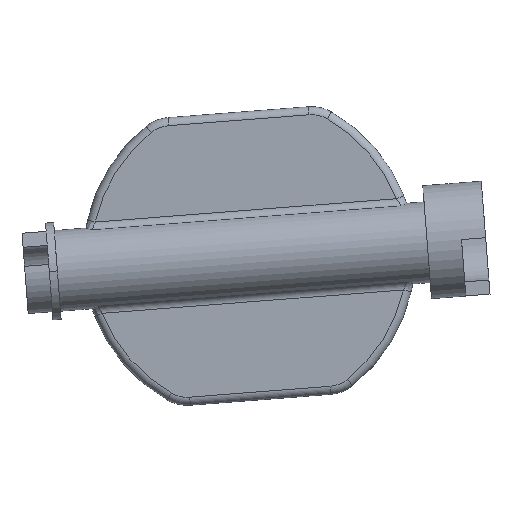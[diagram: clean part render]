
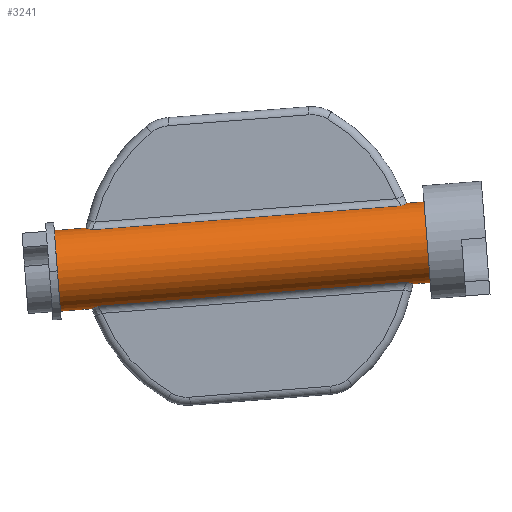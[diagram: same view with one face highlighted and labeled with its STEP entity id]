
A CAD part, front view. The second image highlights one B-rep face of the part: STEP entity #3241.
In plain terms, the highlighted cylindrical face has radius 5 mm (diameter 10 mm), a partial arc.
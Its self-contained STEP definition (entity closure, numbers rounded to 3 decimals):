
#776=CARTESIAN_POINT('',(595.539,-1.667,-146.277));
#777=CARTESIAN_POINT('',(595.62,-1.59,-146.298));
#778=CARTESIAN_POINT('',(595.769,-1.439,-146.336));
#779=CARTESIAN_POINT('',(595.952,-1.218,-146.382));
#780=CARTESIAN_POINT('',(596.093,-1.002,-146.421));
#781=CARTESIAN_POINT('',(596.195,-0.794,
-146.451));
#782=CARTESIAN_POINT('',(596.263,-0.595,
-146.473));
#783=CARTESIAN_POINT('',(596.302,-0.401,
-146.49));
#784=CARTESIAN_POINT('',(596.309,-0.277,
-146.497));
#785=CARTESIAN_POINT('',(596.309,-0.217,
-146.5));
#801=CARTESIAN_POINT('',(596.309,-0.217,
-146.5));
#803=CARTESIAN_POINT('',(596.309,-0.217,
-146.5));
#804=CARTESIAN_POINT('',(596.308,-0.181,
-146.501));
#805=CARTESIAN_POINT('',(596.308,-0.108,
-146.504));
#806=CARTESIAN_POINT('',(596.308,-0.036,
-146.504));
#807=CARTESIAN_POINT('',(596.308,0.,
-146.504));
#829=CARTESIAN_POINT('',(595.535,0.,-136.534));
#830=CARTESIAN_POINT('',(595.535,-0.036,
-136.534));
#831=CARTESIAN_POINT('',(595.536,-0.108,
-136.535));
#832=CARTESIAN_POINT('',(595.536,-0.181,
-136.537));
#833=CARTESIAN_POINT('',(595.537,-0.217,
-136.539));
#835=CARTESIAN_POINT('',(595.537,-0.217,
-136.539));
#894=DIRECTION('',(-0.997,0.,-0.077));
#895=VECTOR('',#894,2.177);
#896=CARTESIAN_POINT('',(597.706,0.,-136.366));
#897=LINE('',#896,#895);
#902=DIRECTION('',(-0.997,0.,-0.077));
#903=VECTOR('',#902,3.927);
#904=CARTESIAN_POINT('',(555.892,0.,
-139.606));
#905=LINE('',#904,#903);
#1018=CARTESIAN_POINT('',(552.363,0.,-144.894));
#1019=DIRECTION('',(-0.997,0.,-0.077));
#1020=DIRECTION('',(0.077,0.,-0.997));
#1021=AXIS2_PLACEMENT_3D('',#1018,#1019,#1020);
#1023=DIRECTION('',(-0.997,0.,-0.077));
#1024=VECTOR('',#1023,38.264);
#1025=CARTESIAN_POINT('',(594.811,-1.667,
-136.877));
#1026=LINE('',#1025,#1024);
#1027=CARTESIAN_POINT('',(598.092,0.,-141.351));
#1028=DIRECTION('',(-0.997,0.,-0.077));
#1029=DIRECTION('',(0.077,0.,-0.997));
#1030=AXIS2_PLACEMENT_3D('',#1027,#1028,#1029);
#1032=DIRECTION('',(-0.997,0.,-0.077));
#1033=VECTOR('',#1032,2.177);
#1034=CARTESIAN_POINT('',(598.478,0.,-146.336));
#1035=LINE('',#1034,#1033);
#1036=DIRECTION('',(0.997,0.,0.077));
#1037=VECTOR('',#1036,38.264);
#1038=CARTESIAN_POINT('',(557.389,-1.667,
-149.233));
#1039=LINE('',#1038,#1037);
#1040=DIRECTION('',(-0.997,0.,-0.077));
#1041=VECTOR('',#1040,3.927);
#1042=CARTESIAN_POINT('',(556.665,0.,-149.576));
#1043=LINE('',#1042,#1041);
#1246=CARTESIAN_POINT('',(556.665,0.,-149.576));
#1247=CARTESIAN_POINT('',(556.665,-0.036,
-149.576));
#1248=CARTESIAN_POINT('',(556.664,-0.108,
-149.575));
#1249=CARTESIAN_POINT('',(556.664,-0.181,
-149.573));
#1250=CARTESIAN_POINT('',(556.663,-0.217,
-149.571));
#1252=CARTESIAN_POINT('',(556.663,-0.217,
-149.571));
#1274=CARTESIAN_POINT('',(555.891,-0.217,
-139.61));
#1276=CARTESIAN_POINT('',(555.891,-0.217,
-139.61));
#1277=CARTESIAN_POINT('',(555.892,-0.181,
-139.609));
#1278=CARTESIAN_POINT('',(555.892,-0.108,
-139.606));
#1279=CARTESIAN_POINT('',(555.892,-0.036,
-139.606));
#1280=CARTESIAN_POINT('',(555.892,0.,
-139.606));
#1282=CARTESIAN_POINT('',(555.892,0.,
-139.606));
#1304=CARTESIAN_POINT('',(556.663,-0.217,
-149.571));
#1305=CARTESIAN_POINT('',(556.662,-0.276,
-149.569));
#1306=CARTESIAN_POINT('',(556.668,-0.399,
-149.561));
#1307=CARTESIAN_POINT('',(556.703,-0.591,
-149.539));
#1308=CARTESIAN_POINT('',(556.766,-0.791,
-149.506));
#1309=CARTESIAN_POINT('',(556.862,-1.,
-149.461));
#1310=CARTESIAN_POINT('',(556.996,-1.217,
-149.401));
#1311=CARTESIAN_POINT('',(557.17,-1.439,
-149.327));
#1312=CARTESIAN_POINT('',(557.313,-1.59,
-149.266));
#1313=CARTESIAN_POINT('',(557.389,-1.667,
-149.233));
#1404=CARTESIAN_POINT('',(595.537,-0.217,
-136.539));
#1405=CARTESIAN_POINT('',(595.538,-0.276,
-136.541));
#1406=CARTESIAN_POINT('',(595.532,-0.399,
-136.549));
#1407=CARTESIAN_POINT('',(595.497,-0.591,
-136.571));
#1408=CARTESIAN_POINT('',(595.434,-0.791,
-136.604));
#1409=CARTESIAN_POINT('',(595.338,-1.,
-136.649));
#1410=CARTESIAN_POINT('',(595.204,-1.217,
-136.709));
#1411=CARTESIAN_POINT('',(595.03,-1.439,
-136.783));
#1412=CARTESIAN_POINT('',(594.887,-1.59,
-136.844));
#1413=CARTESIAN_POINT('',(594.811,-1.667,
-136.877));
#1446=CARTESIAN_POINT('',(556.661,-1.667,
-139.833));
#1447=CARTESIAN_POINT('',(556.58,-1.59,
-139.812));
#1448=CARTESIAN_POINT('',(556.431,-1.439,
-139.774));
#1449=CARTESIAN_POINT('',(556.248,-1.218,
-139.728));
#1450=CARTESIAN_POINT('',(556.107,-1.002,
-139.689));
#1451=CARTESIAN_POINT('',(556.005,-0.794,
-139.659));
#1452=CARTESIAN_POINT('',(555.937,-0.595,
-139.637));
#1453=CARTESIAN_POINT('',(555.898,-0.401,
-139.62));
#1454=CARTESIAN_POINT('',(555.891,-0.277,
-139.613));
#1455=CARTESIAN_POINT('',(555.891,-0.217,
-139.61));
#1493=CARTESIAN_POINT('',(594.811,-1.667,
-136.877));
#1494=CARTESIAN_POINT('',(556.661,-1.667,
-139.833));
#1495=VERTEX_POINT('',#1493);
#1496=VERTEX_POINT('',#1494);
#1501=CARTESIAN_POINT('',(557.389,-1.667,
-149.233));
#1502=CARTESIAN_POINT('',(595.539,-1.667,
-146.277));
#1503=VERTEX_POINT('',#1501);
#1504=VERTEX_POINT('',#1502);
#1517=CARTESIAN_POINT('',(597.706,0.,-136.366));
#1518=CARTESIAN_POINT('',(598.478,0.,-146.336));
#1519=VERTEX_POINT('',#1517);
#1520=VERTEX_POINT('',#1518);
#1521=CARTESIAN_POINT('',(595.535,0.,-136.534));
#1522=VERTEX_POINT('',#1521);
#1523=CARTESIAN_POINT('',(596.308,0.,
-146.504));
#1524=VERTEX_POINT('',#1523);
#1569=CARTESIAN_POINT('',(551.977,0.,-139.909));
#1570=CARTESIAN_POINT('',(552.749,0.,-149.879));
#1571=VERTEX_POINT('',#1569);
#1572=VERTEX_POINT('',#1570);
#1612=VERTEX_POINT('',#801);
#1614=VERTEX_POINT('',#1252);
#1630=VERTEX_POINT('',#1274);
#1633=VERTEX_POINT('',#835);
#1634=VERTEX_POINT('',#1282);
#1635=VERTEX_POINT('',#1246);
#3210=CARTESIAN_POINT('',(603.825,0.,-140.907));
#3211=DIRECTION('',(-0.997,0.,-0.077));
#3212=DIRECTION('',(-0.077,0.,0.997));
#3213=AXIS2_PLACEMENT_3D('',#3210,#3211,#3212);
#3214=CYLINDRICAL_SURFACE('',#3213,5.);
#3215=ORIENTED_EDGE('',*,*,#3067,.T.);
#3216=ORIENTED_EDGE('',*,*,#3050,.F.);
#3218=ORIENTED_EDGE('',*,*,#3217,.F.);
#3220=ORIENTED_EDGE('',*,*,#3219,.F.);
#3222=ORIENTED_EDGE('',*,*,#3221,.F.);
#3224=ORIENTED_EDGE('',*,*,#3223,.F.);
#3225=ORIENTED_EDGE('',*,*,#2932,.F.);
#3226=ORIENTED_EDGE('',*,*,#3039,.F.);
#3228=ORIENTED_EDGE('',*,*,#3227,.F.);
#3229=ORIENTED_EDGE('',*,*,#3035,.T.);
#3230=ORIENTED_EDGE('',*,*,#2916,.F.);
#3231=ORIENTED_EDGE('',*,*,#2903,.F.);
#3233=ORIENTED_EDGE('',*,*,#3232,.F.);
#3235=ORIENTED_EDGE('',*,*,#3234,.F.);
#3237=ORIENTED_EDGE('',*,*,#3236,.F.);
#3238=ORIENTED_EDGE('',*,*,#3026,.T.);
#3239=EDGE_LOOP('',(#3215,#3216,#3218,#3220,#3222,#3224,#3225,#3226,#3228,#3229,
#3230,#3231,#3233,#3235,#3237,#3238));
#3240=FACE_OUTER_BOUND('',#3239,.F.);
#3241=ADVANCED_FACE('',(#3240),#3214,.T.);
#786=B_SPLINE_CURVE_WITH_KNOTS('',3,(#776,#777,#778,#779,#780,#781,#782,#783,
#784,#785),.UNSPECIFIED.,.F.,.F.,(4,1,1,1,1,1,1,4),(0.,0.143,
0.286,0.429,0.571,0.714,
0.857,1.),.UNSPECIFIED.);
#808=B_SPLINE_CURVE_WITH_KNOTS('',3,(#803,#804,#805,#806,#807),.UNSPECIFIED.,
.F.,.F.,(4,1,4),(0.,0.5,1.),.UNSPECIFIED.);
#834=B_SPLINE_CURVE_WITH_KNOTS('',3,(#829,#830,#831,#832,#833),.UNSPECIFIED.,
.F.,.F.,(4,1,4),(0.,0.5,1.),.UNSPECIFIED.);
#1022=CIRCLE('',#1021,5.);
#1031=CIRCLE('',#1030,5.);
#1251=B_SPLINE_CURVE_WITH_KNOTS('',3,(#1246,#1247,#1248,#1249,#1250),
.UNSPECIFIED.,.F.,.F.,(4,1,4),(0.,0.5,1.),.UNSPECIFIED.);
#1281=B_SPLINE_CURVE_WITH_KNOTS('',3,(#1276,#1277,#1278,#1279,#1280),
.UNSPECIFIED.,.F.,.F.,(4,1,4),(0.,0.5,1.),.UNSPECIFIED.);
#1314=B_SPLINE_CURVE_WITH_KNOTS('',3,(#1304,#1305,#1306,#1307,#1308,#1309,#1310,
#1311,#1312,#1313),.UNSPECIFIED.,.F.,.F.,(4,1,1,1,1,1,1,4),(0.,
0.143,0.286,0.429,0.571,
0.714,0.857,1.),.UNSPECIFIED.);
#1414=B_SPLINE_CURVE_WITH_KNOTS('',3,(#1404,#1405,#1406,#1407,#1408,#1409,#1410,
#1411,#1412,#1413),.UNSPECIFIED.,.F.,.F.,(4,1,1,1,1,1,1,4),(0.,
0.143,0.286,0.429,0.571,
0.714,0.857,1.),.UNSPECIFIED.);
#1456=B_SPLINE_CURVE_WITH_KNOTS('',3,(#1446,#1447,#1448,#1449,#1450,#1451,#1452,
#1453,#1454,#1455),.UNSPECIFIED.,.F.,.F.,(4,1,1,1,1,1,1,4),(0.,
0.143,0.286,0.429,0.571,
0.714,0.857,1.),.UNSPECIFIED.);
#2903=EDGE_CURVE('',#1504,#1612,#786,.T.);
#2916=EDGE_CURVE('',#1612,#1524,#808,.T.);
#2932=EDGE_CURVE('',#1522,#1633,#834,.T.);
#3026=EDGE_CURVE('',#1635,#1572,#1043,.T.);
#3035=EDGE_CURVE('',#1520,#1524,#1035,.T.);
#3039=EDGE_CURVE('',#1519,#1522,#897,.T.);
#3050=EDGE_CURVE('',#1634,#1571,#905,.T.);
#3067=EDGE_CURVE('',#1572,#1571,#1022,.T.);
#3217=EDGE_CURVE('',#1630,#1634,#1281,.T.);
#3219=EDGE_CURVE('',#1496,#1630,#1456,.T.);
#3221=EDGE_CURVE('',#1495,#1496,#1026,.T.);
#3223=EDGE_CURVE('',#1633,#1495,#1414,.T.);
#3227=EDGE_CURVE('',#1520,#1519,#1031,.T.);
#3232=EDGE_CURVE('',#1503,#1504,#1039,.T.);
#3234=EDGE_CURVE('',#1614,#1503,#1314,.T.);
#3236=EDGE_CURVE('',#1635,#1614,#1251,.T.);
